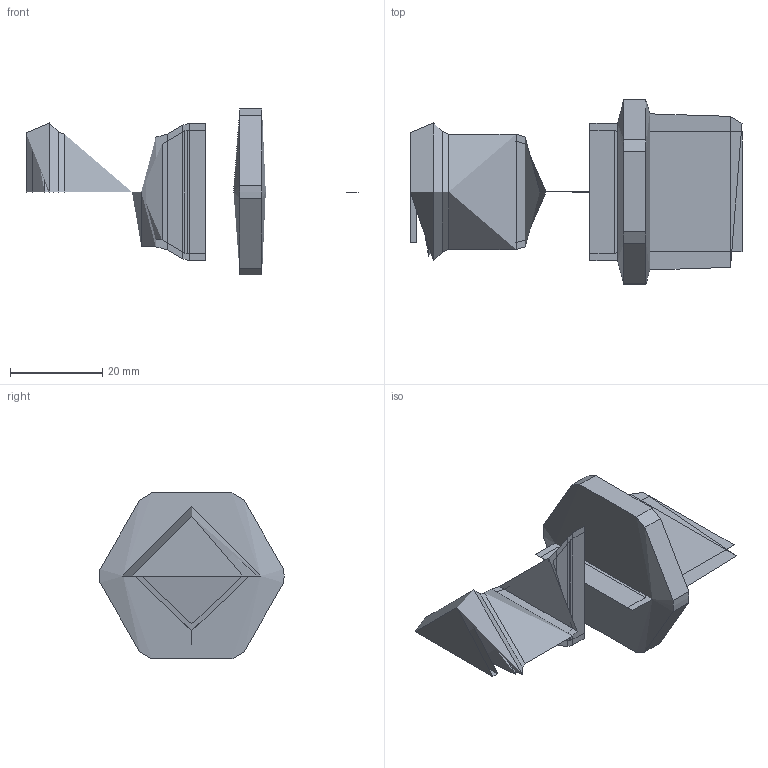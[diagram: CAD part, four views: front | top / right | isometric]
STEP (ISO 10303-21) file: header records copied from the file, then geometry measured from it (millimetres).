
FILE_DESCRIPTION(('FreeCAD Model'),'2;1');
FILE_NAME('Open CASCADE Shape Model','2025-10-20T15:01:23',('Author'),( ''),'Open CASCADE STEP processor 7.8','FreeCAD','Unknown');
FILE_SCHEMA(('AUTOMOTIVE_DESIGN { 1 0 10303 214 1 1 1 1 }'));
Length unit declared in the file: millimetre
Products named in the file (7): Unnamed157; COMPOUND; COMPOUND001; X-Achse; XY-Ebene; COMPOUND002; COMPOUND003
Assembly tree (18 placements, depth 3):
  Unnamed157
    COMPOUND
    COMPOUND001
      COMPOUND
    X-Achse  x6
    XY-Ebene  x6
    COMPOUND002
    COMPOUND003
      COMPOUND002
Bounding box: 72 x 39.93 x 36 mm (x, y, z)
Volume: 32331.9 mm3; surface area: 28146.9 mm2
Topology: 4 solids, 4 shells, 90 faces, 280 edges, 194 vertices
Faces by surface type: bspline 90
Entity records: 2224 total; most frequent: CARTESIAN_POINT 1296, ORIENTED_EDGE 274, EDGE_CURVE 137, VERTEX_POINT 97, FACE_BOUND 50, EDGE_LOOP 50, ADVANCED_FACE 45, DIRECTION 39
